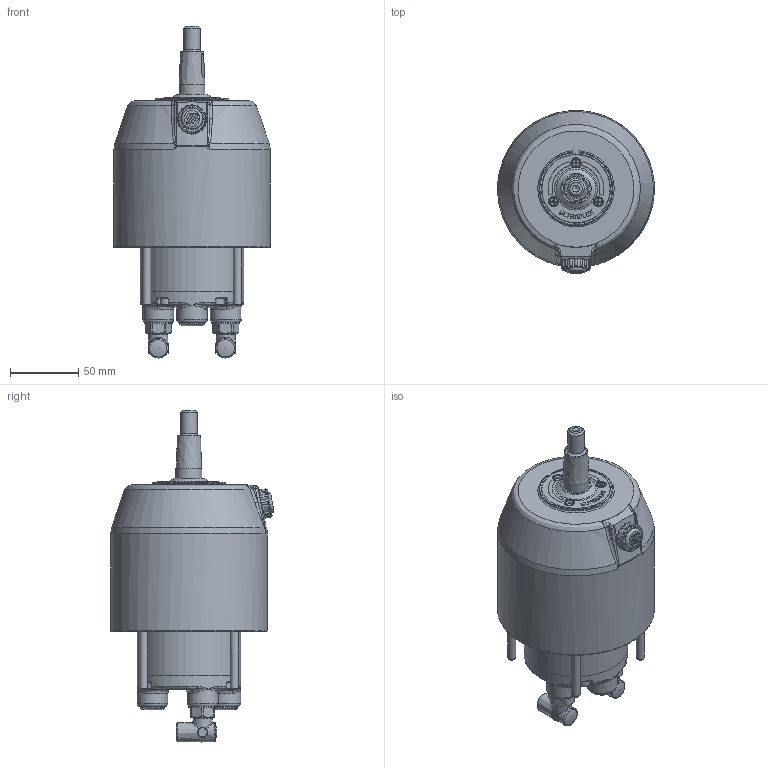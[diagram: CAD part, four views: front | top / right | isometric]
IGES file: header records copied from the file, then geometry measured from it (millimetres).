
Global section: file name: No Iges File Name specified; native system: Autodesk Inventor 2013; preprocessor: AutoDesk Inventor Iges Exporter R2013; author: Pagani; date: 20140728.133744; units: millimetre
Bounding box: 114.97 x 119.58 x 243.61 mm (x, y, z)
Volume: 570536.4 mm3; surface area: 219575.9 mm2
Topology: 39 solids, 39 shells, 2570 faces, 6306 edges, 3827 vertices
Faces by surface type: bspline 2570
